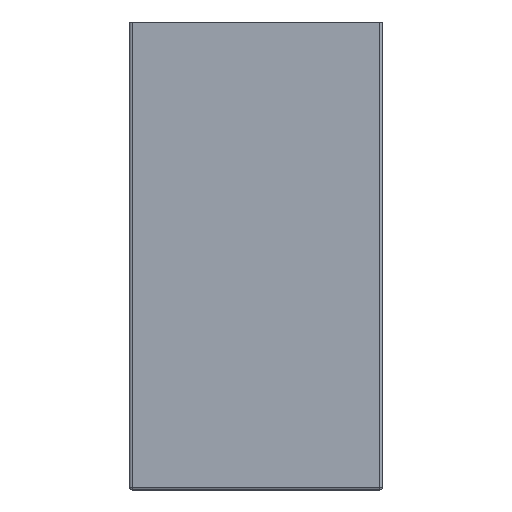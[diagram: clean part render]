
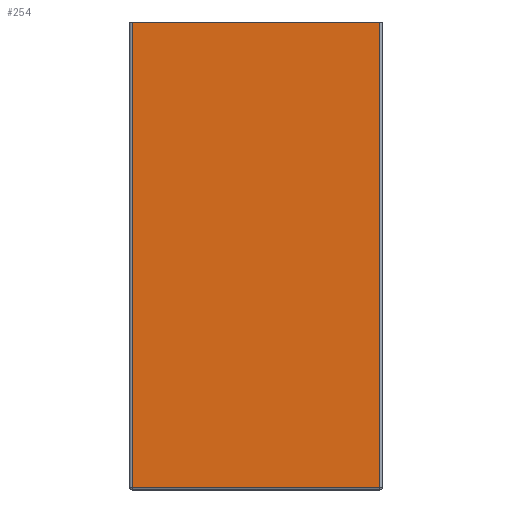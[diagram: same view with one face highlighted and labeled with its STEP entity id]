
A CAD part, left-side view. The second image highlights one B-rep face of the part: STEP entity #254.
In plain terms, the highlighted planar face has unit normal (-1, 0, 0).
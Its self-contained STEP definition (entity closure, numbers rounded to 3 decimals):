
#234=AXIS2_PLACEMENT_3D('Plane Axis2P3D',#231,#232,#233) ;
#43=CARTESIAN_POINT('Vertex',(-700.,-198.,370.)) ;
#85=CARTESIAN_POINT('Vertex',(-700.,-2.,370.)) ;
#88=CARTESIAN_POINT('Line Origine',(-700.,-100.,370.)) ;
#164=CARTESIAN_POINT('Line Origine',(-700.,-2.,185.)) ;
#168=CARTESIAN_POINT('Vertex',(-700.,-2.,2.)) ;
#231=CARTESIAN_POINT('Axis2P3D Location',(-700.,0.,0.)) ;
#236=CARTESIAN_POINT('Line Origine',(-700.,-100.,2.)) ;
#240=CARTESIAN_POINT('Vertex',(-700.,-198.,2.)) ;
#243=CARTESIAN_POINT('Line Origine',(-700.,-198.,186.)) ;
#89=DIRECTION('Vector Direction',(0.,-1.,0.)) ;
#165=DIRECTION('Vector Direction',(0.,0.,1.)) ;
#232=DIRECTION('Axis2P3D Direction',(1.,0.,-0.)) ;
#233=DIRECTION('Axis2P3D XDirection',(0.,0.,1.)) ;
#237=DIRECTION('Vector Direction',(0.,1.,0.)) ;
#244=DIRECTION('Vector Direction',(0.,0.,1.)) ;
#90=VECTOR('Line Direction',#89,1.) ;
#166=VECTOR('Line Direction',#165,1.) ;
#238=VECTOR('Line Direction',#237,1.) ;
#245=VECTOR('Line Direction',#244,1.) ;
#249=ORIENTED_EDGE('',*,*,#242,.T.) ;
#250=ORIENTED_EDGE('',*,*,#247,.T.) ;
#251=ORIENTED_EDGE('',*,*,#92,.F.) ;
#252=ORIENTED_EDGE('',*,*,#170,.F.) ;
#254=ADVANCED_FACE('STRUTTURA',(#253),#235,.F.) ;
#92=EDGE_CURVE('',#86,#44,#91,.T.) ;
#170=EDGE_CURVE('',#169,#86,#167,.T.) ;
#242=EDGE_CURVE('',#169,#241,#239,.F.) ;
#247=EDGE_CURVE('',#241,#44,#246,.T.) ;
#248=EDGE_LOOP('',(#249,#250,#251,#252)) ;
#253=FACE_OUTER_BOUND('',#248,.T.) ;
#91=LINE('Line',#88,#90) ;
#167=LINE('Line',#164,#166) ;
#239=LINE('Line',#236,#238) ;
#246=LINE('Line',#243,#245) ;
#235=PLANE('Plane',#234) ;
#44=VERTEX_POINT('',#43) ;
#86=VERTEX_POINT('',#85) ;
#169=VERTEX_POINT('',#168) ;
#241=VERTEX_POINT('',#240) ;
